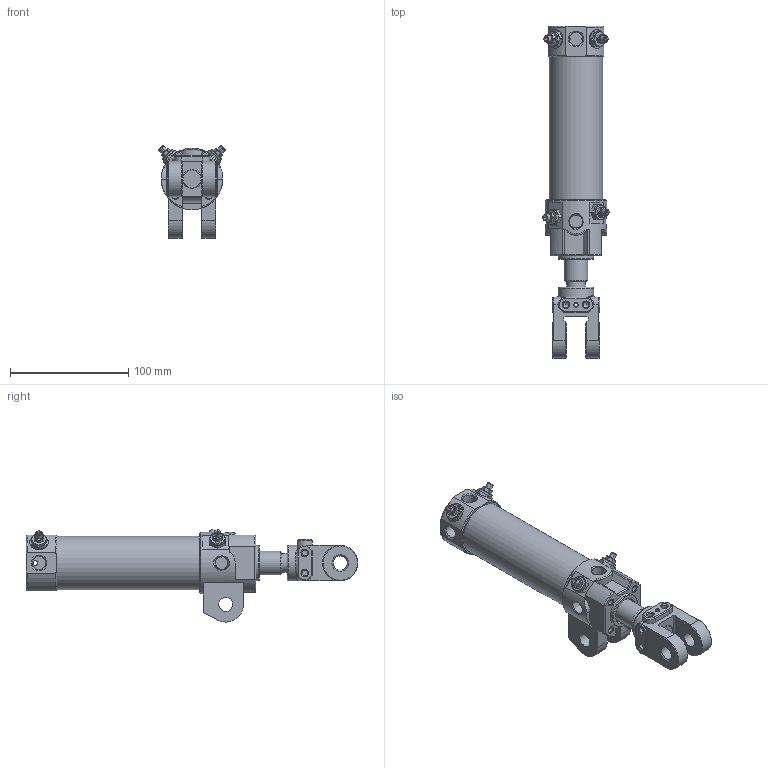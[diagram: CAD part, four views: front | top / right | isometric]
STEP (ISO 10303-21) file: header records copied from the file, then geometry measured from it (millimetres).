
FILE_DESCRIPTION((''),'2;1');
FILE_NAME('I:\3D電子目錄\氣缸\DCK\DCK\DCK-1A-40x75-Y.stp','2008-02-26T11:10:12',('Administrator'),(''),'Autodesk Inventor 11','Autodesk Inventor 11','');
FILE_SCHEMA(('AUTOMOTIVE_DESIGN { 1 0 10303 214 1 1 1 1 }'));
Length unit declared in the file: millimetre
Products named in the file (6): DCK-1A-40-Y; 緩衝針; 緩衝針-1; 緩衝針-201; 緩衝針-3
Assembly tree (8 placements, depth 3):
  DCK-1A-40-Y
    DCK-1A-40-Y
    緩衝針  x4
      緩衝針-1
      緩衝針-201
      緩衝針-3
Bounding box: 56.06 x 281 x 78.02 mm (x, y, z)
Volume: 236962.9 mm3; surface area: 99075.7 mm2
Topology: 15 solids, 15 shells, 731 faces, 1686 edges, 1042 vertices
Faces by surface type: plane 241, cylinder 217, cone 148, bspline 83, torus 40, sphere 2
Full cylindrical faces by diameter (mm): 2 x1, 3 x3, 3.8 x2, 4 x6, 4.6 x4, 5 x8, 5.1 x4, 5.2 x12, 5.5 x4, 7 x1, 7.25 x1, 7.9 x4, 8 x2, 8.3 x1, 10 x2, 12 x4, 12.8 x4, 16 x3, 20 x1, 21 x1, 22 x3, 23 x1, 24.7 x1, 26 x1, 28 x1, 29 x1, 30 x4, 33 x1, 40 x1, 42 x2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
Entity records: 25728 total; most frequent: CARTESIAN_POINT 15601, DIRECTION 1979, ORIENTED_EDGE 1952, EDGE_CURVE 976, AXIS2_PLACEMENT_3D 846, EDGE_LOOP 687, VERTEX_POINT 677, FACE_OUTER_BOUND 480
